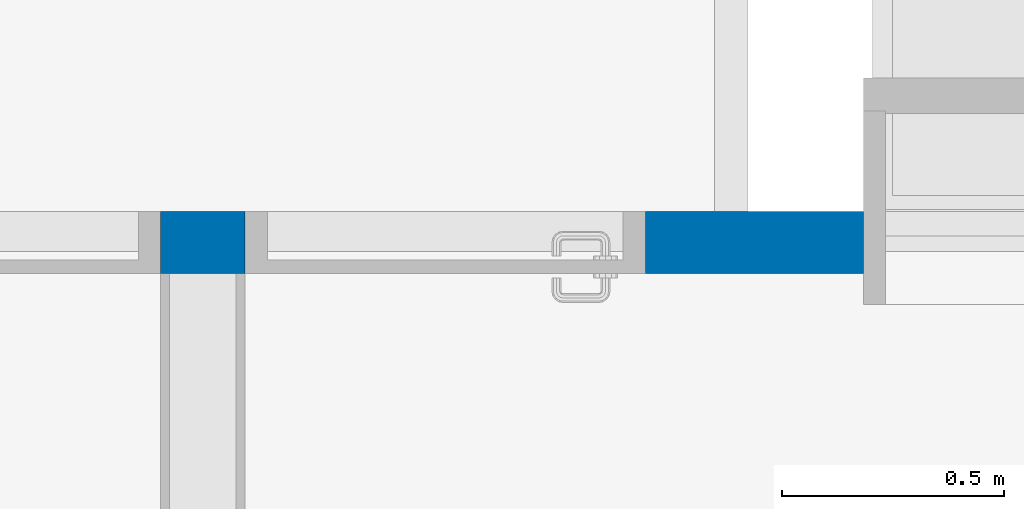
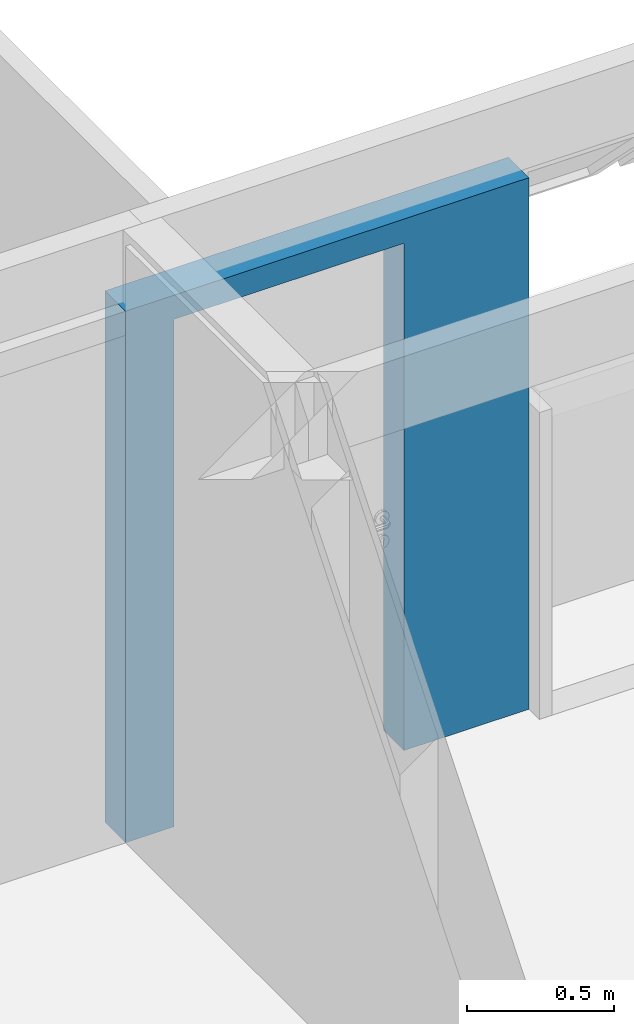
# One storey, part 29 of 40: 1 wall, 1 opening.
"""IFC4 building model written with IfcOpenShell, lengths in millimetres."""

from ifc_helpers import new_model, entity, si_unit, converted_unit, derived_unit, direction, frame, origin_with_axes, origin_2d_with_axis, place, context, subcontext, project, spatial, line, indexed_curve, rectangle, outline, extrude, material, layer, layer_set, layer_usage, type_object, element, save


model = new_model("IFC4")

# Units and contexts
model_context = context("Model", 3, precision=0.01, world=origin_with_axes(), true_north=direction((0.0, 1.0)))
body_context = subcontext(model_context, "Body", "Model", "MODEL_VIEW")
ifc_project = project(units=[si_unit("LENGTHUNIT", "METRE", prefix="MILLI"), si_unit("AREAUNIT", "SQUARE_METRE"), si_unit("VOLUMEUNIT", "CUBIC_METRE"), converted_unit("PLANEANGLEUNIT", "DEGREE", entity("IfcPlaneAngleMeasure", 0.0174532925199), si_unit("PLANEANGLEUNIT", "RADIAN"), dimensions=[0, 0, 0, 0, 0, 0, 0]), converted_unit("TIMEUNIT", "Year", entity("IfcTimeMeasure", 31556926.0), si_unit("TIMEUNIT", "SECOND"), dimensions=[0, 0, 1, 0, 0, 0, 0]), si_unit("MASSUNIT", "GRAM", prefix="KILO"), si_unit("THERMODYNAMICTEMPERATUREUNIT", "DEGREE_CELSIUS"), si_unit("LUMINOUSINTENSITYUNIT", "LUMEN"), si_unit("ENERGYUNIT", "JOULE", prefix="MEGA"), derived_unit("THERMALCONDUCTANCEUNIT", [(si_unit("POWERUNIT", "WATT"), 1), (si_unit("LENGTHUNIT", "METRE"), -1), (si_unit("THERMODYNAMICTEMPERATUREUNIT", "KELVIN"), -1)]), derived_unit("SPECIFICHEATCAPACITYUNIT", [(si_unit("ENERGYUNIT", "JOULE"), 1), (si_unit("MASSUNIT", "GRAM", prefix="KILO"), -1), (si_unit("THERMODYNAMICTEMPERATUREUNIT", "KELVIN"), -1)]), derived_unit("MASSDENSITYUNIT", [(si_unit("MASSUNIT", "GRAM", prefix="KILO"), 1), (si_unit("VOLUMEUNIT", "CUBIC_METRE"), -1)])], contexts=[model_context])

# Site, building, storey
site_placement = place(None, origin_with_axes())
site = spatial("IfcSite", under=ifc_project, at=site_placement, Name="Local", CompositionType="ELEMENT")
building_placement = place(site_placement, origin_with_axes())
building = spatial("IfcBuilding", under=site, at=building_placement, Name="Construção", CompositionType="ELEMENT")
storey_placement = place(building_placement, frame((0.0, 0.0, 5300.0), z_axis=(0.0, 0.0, 1.0), x_axis=(1.0, 0.0, 0.0)))
storey = spatial("IfcBuildingStorey", under=building, at=storey_placement, Name="Terceiro Pavimento", CompositionType="ELEMENT", Elevation=5300.0)

# Wall, opening
ifc_material = material(Name="GENÉRICO - VEDAÇÃO EXTERNA")
ifc_layer = layer(ifc_material, 140.0, ventilated="UNKNOWN", Name="GENÉRICO - VEDAÇÃO EXTERNA")
ifc_layer_set = layer_set([ifc_layer], Name="GENÉRICO - VEDAÇÃO EXTERNA 140")
ifc_layer_usage = layer_usage(ifc_layer_set, "AXIS2", "POSITIVE", 0.0)
wall_type = type_object("IfcWallType", Name="GENÉRICO - VEDAÇÃO EXTERNA 140", PredefinedType="NOTDEFINED")
wall_placement = place(storey_placement, frame((7290.0, 8125.0, 0.0), z_axis=(0.0, 0.0, 1.0), x_axis=(1.0, 0.0, 0.0)))
wall = element("IfcWall", 1, at=wall_placement, inside=storey, type_object=wall_type, material=ifc_layer_usage, Name="APTO10-PAREDE-004", PredefinedType="NOTDEFINED", context=body_context, shape_type="SweptSolid", body=[
    extrude(outline(indexed_curve([(0.0, 0.0), (1580.0, 0.0), (1580.0, 140.0), (0.0, 140.0)], segments=[line(1, 2, 3, 4, 1)])), origin_with_axes(), (0.0, 0.0, 1.0), 2200.0),
])
opening_placement = place(wall_placement, frame((640.0, 0.0, 0.0), z_axis=(0.0, 0.0, 1.0), x_axis=(1.0, 0.0, 0.0)))
element("IfcOpeningElement", 2, at=opening_placement, cuts=wall, Name="APTO10-PORTA-004", context=body_context, shape_type="SweptSolid", body=[
    extrude(rectangle(XDim=900.0, YDim=2100.0, at=origin_2d_with_axis()), frame((0.0, -140.0, 1050.0), z_axis=(0.0, 1.0, 0.0), x_axis=(-1.0, 0.0, 0.0)), (0.0, 0.0, 1.0), 420.0),
])

save(model, "model.ifc")
